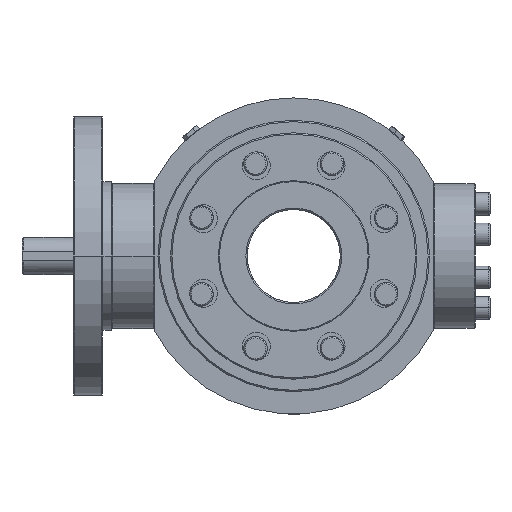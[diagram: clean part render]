
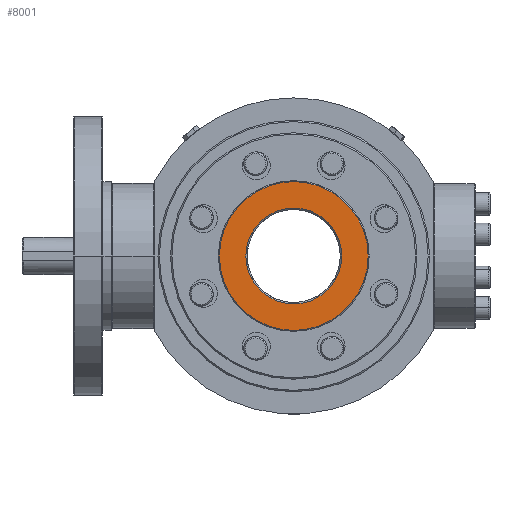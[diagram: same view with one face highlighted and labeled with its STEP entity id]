
A CAD part, left-side view. The second image highlights one B-rep face of the part: STEP entity #8001.
In plain terms, the highlighted planar face has unit normal (-1, 0, 0).
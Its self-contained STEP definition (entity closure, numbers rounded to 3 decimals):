
#430 = CARTESIAN_POINT ( 'NONE',  ( 0., 0., -80. ) ) ;
#1198 = EDGE_LOOP ( 'NONE', ( #34792, #24400 ) ) ;
#2206 = FACE_OUTER_BOUND ( 'NONE', #1198, .T. ) ;
#3287 = ORIENTED_EDGE ( 'NONE', *, *, #4783, .F. ) ;
#3437 = EDGE_LOOP ( 'NONE', ( #10978, #3287 ) ) ;
#4473 = AXIS2_PLACEMENT_3D ( 'NONE', #30042, #10745, #33303 ) ;
#4579 = DIRECTION ( 'NONE',  ( -1., 0., 0. ) ) ;
#4783 = EDGE_CURVE ( 'NONE', #18242, #16103, #14862, .T. ) ;
#5501 = DIRECTION ( 'NONE',  ( 0., 0., -1. ) ) ;
#6345 = CARTESIAN_POINT ( 'NONE',  ( 0., 0., -51.5 ) ) ;
#6350 = CARTESIAN_POINT ( 'NONE',  ( 0., 0., 0. ) ) ;
#7169 = CIRCLE ( 'NONE', #34176, 80. ) ;
#8001 = ADVANCED_FACE ( 'NONE', ( #18233, #2206 ), #34393, .F. ) ;
#9593 = DIRECTION ( 'NONE',  ( 0., 0., 1. ) ) ;
#10745 = DIRECTION ( 'NONE',  ( -1., 0., 0. ) ) ;
#10978 = ORIENTED_EDGE ( 'NONE', *, *, #35344, .F. ) ;
#11419 = VERTEX_POINT ( 'NONE', #35661 ) ;
#14862 = CIRCLE ( 'NONE', #34362, 51.5 ) ;
#16103 = VERTEX_POINT ( 'NONE', #40775 ) ;
#16436 = CARTESIAN_POINT ( 'NONE',  ( 0., 0., 0. ) ) ;
#17724 = CIRCLE ( 'NONE', #18697, 51.5 ) ;
#18233 = FACE_BOUND ( 'NONE', #3437, .T. ) ;
#18241 = CARTESIAN_POINT ( 'NONE',  ( 0., 80., 0. ) ) ;
#18242 = VERTEX_POINT ( 'NONE', #6345 ) ;
#18697 = AXIS2_PLACEMENT_3D ( 'NONE', #23826, #4579, #27084 ) ;
#19703 = DIRECTION ( 'NONE',  ( 0., 0., 1. ) ) ;
#19841 = EDGE_CURVE ( 'NONE', #25226, #11419, #7169, .T. ) ;
#20429 = EDGE_CURVE ( 'NONE', #11419, #25226, #22242, .T. ) ;
#22242 = CIRCLE ( 'NONE', #4473, 80. ) ;
#23826 = CARTESIAN_POINT ( 'NONE',  ( 0., 0., 0. ) ) ;
#24400 = ORIENTED_EDGE ( 'NONE', *, *, #20429, .T. ) ;
#24779 = DIRECTION ( 'NONE',  ( 1., 0., 0. ) ) ;
#25226 = VERTEX_POINT ( 'NONE', #430 ) ;
#27084 = DIRECTION ( 'NONE',  ( 0., 0., 1. ) ) ;
#27085 = AXIS2_PLACEMENT_3D ( 'NONE', #18241, #24779, #5501 ) ;
#28885 = DIRECTION ( 'NONE',  ( -1., 0., 0. ) ) ;
#30042 = CARTESIAN_POINT ( 'NONE',  ( 0., 0., 0. ) ) ;
#33303 = DIRECTION ( 'NONE',  ( 0., 0., 1. ) ) ;
#34176 = AXIS2_PLACEMENT_3D ( 'NONE', #6350, #28885, #9593 ) ;
#34362 = AXIS2_PLACEMENT_3D ( 'NONE', #16436, #39050, #19703 ) ;
#34393 = PLANE ( 'NONE',  #27085 ) ;
#34792 = ORIENTED_EDGE ( 'NONE', *, *, #19841, .T. ) ;
#35344 = EDGE_CURVE ( 'NONE', #16103, #18242, #17724, .T. ) ;
#35661 = CARTESIAN_POINT ( 'NONE',  ( 0., 0., 80. ) ) ;
#39050 = DIRECTION ( 'NONE',  ( -1., 0., 0. ) ) ;
#40775 = CARTESIAN_POINT ( 'NONE',  ( 0., 0., 51.5 ) ) ;
